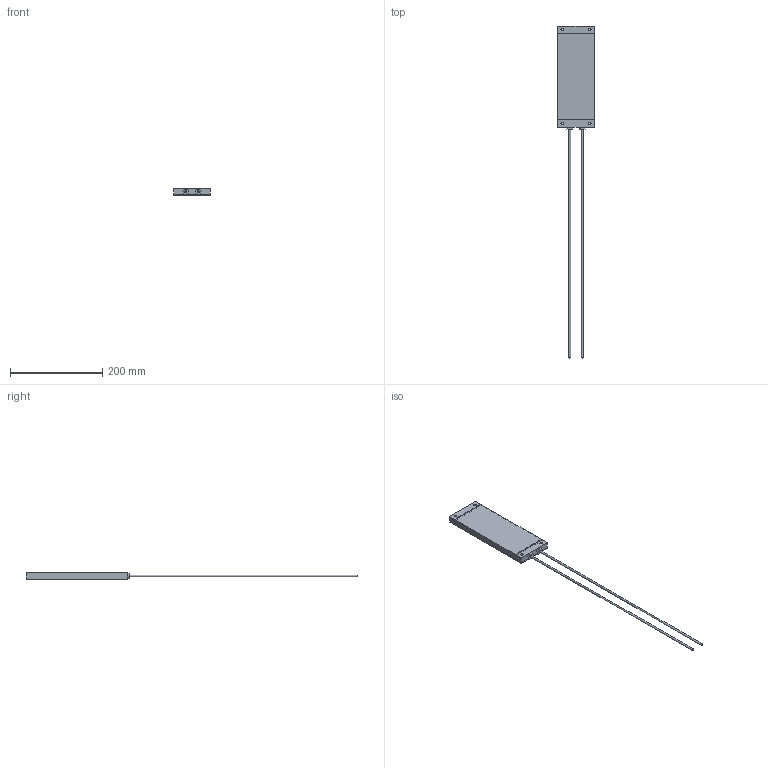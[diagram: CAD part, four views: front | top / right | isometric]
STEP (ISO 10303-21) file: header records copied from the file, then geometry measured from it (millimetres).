
FILE_DESCRIPTION(/* description */ (''),/* implementation_level */ '2;1');
FILE_NAME(/* name */ 'C:\_Vault\Dati\CATALOGO\RFK\Disegni catalogo\RFK500.stp',/* time_stamp */ '2014-03-27T18:29:28+01:00',/* author */ ('stefano'),/* organization */ (''),/* preprocessor_version */ 'ST-DEVELOPER v15.2',/* originating_system */ 'Autodesk Inventor 2014',/* authorisation */ '');
FILE_SCHEMA (('AUTOMOTIVE_DESIGN { 1 0 10303 214 3 1 1 }'));
Length unit declared in the file: millimetre
Products named in the file (1): RFK500
Bounding box: 80 x 719.2 x 15 mm (x, y, z)
Volume: 106465.8 mm3; surface area: 101307.5 mm2
Topology: 3 solids, 3 shells, 118 faces, 302 edges, 204 vertices
Faces by surface type: plane 96, cylinder 20, cone 2
Full cylindrical faces by diameter (mm): 4.1 x2, 4.5 x2, 5 x8, 6 x4, 7 x2, 8.917 x2
Entity records: 3534 total; most frequent: CARTESIAN_POINT 579, DIRECTION 546, ORIENTED_EDGE 536, EDGE_CURVE 268, LINE 228, VECTOR 228, VERTEX_POINT 192, EDGE_LOOP 176
